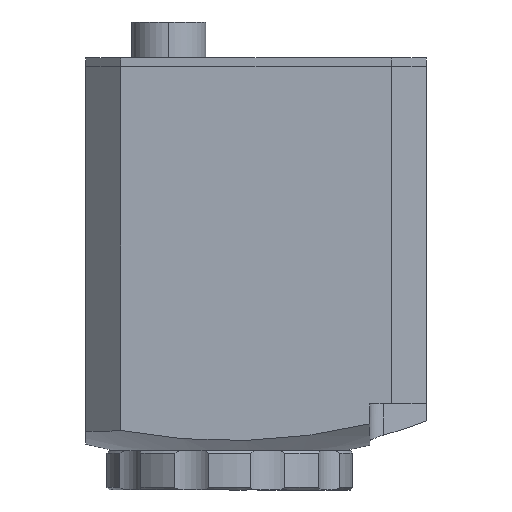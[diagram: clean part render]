
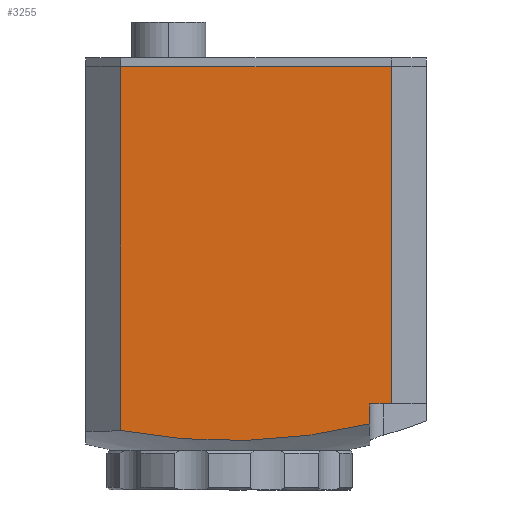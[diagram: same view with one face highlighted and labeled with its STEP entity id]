
A CAD part, left-side view. The second image highlights one B-rep face of the part: STEP entity #3255.
In plain terms, the highlighted planar face has unit normal (-1, 0, 0).
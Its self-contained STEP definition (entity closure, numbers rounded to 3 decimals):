
#10 = CIRCLE ( 'NONE', #3912, 67.633 ) ;
#127 = DIRECTION ( 'NONE',  ( 0., 0., -1. ) ) ;
#142 = EDGE_CURVE ( 'NONE', #1526, #4247, #633, .T. ) ;
#174 = EDGE_CURVE ( 'NONE', #3837, #4247, #3299, .T. ) ;
#207 = EDGE_LOOP ( 'NONE', ( #3661, #2564, #2461, #3683, #1079, #1622 ) ) ;
#283 = CARTESIAN_POINT ( 'NONE',  ( -18.05, 12.5, 79.6 ) ) ;
#310 = CARTESIAN_POINT ( 'NONE',  ( -18.05, -16., 41. ) ) ;
#367 = CARTESIAN_POINT ( 'NONE',  ( -18.05, -16., 38.717 ) ) ;
#470 = VERTEX_POINT ( 'NONE', #1147 ) ;
#527 = CARTESIAN_POINT ( 'NONE',  ( -18.05, 12.5, 79.6 ) ) ;
#570 = EDGE_CURVE ( 'NONE', #4108, #470, #1536, .T. ) ;
#633 = LINE ( 'NONE', #1952, #2794 ) ;
#935 = DIRECTION ( 'NONE',  ( 0., 0., -1. ) ) ;
#937 = CARTESIAN_POINT ( 'NONE',  ( -18.05, -16., 41. ) ) ;
#1079 = ORIENTED_EDGE ( 'NONE', *, *, #142, .F. ) ;
#1112 = VECTOR ( 'NONE', #3682, 1000. ) ;
#1147 = CARTESIAN_POINT ( 'NONE',  ( -18.05, 12.5, 37.963 ) ) ;
#1303 = DIRECTION ( 'NONE',  ( 0., 0., -1. ) ) ;
#1513 = AXIS2_PLACEMENT_3D ( 'NONE', #1787, #1534, #127 ) ;
#1526 = VERTEX_POINT ( 'NONE', #3674 ) ;
#1534 = DIRECTION ( 'NONE',  ( 1., 0., 0. ) ) ;
#1536 = LINE ( 'NONE', #283, #3009 ) ;
#1622 = ORIENTED_EDGE ( 'NONE', *, *, #2389, .F. ) ;
#1787 = CARTESIAN_POINT ( 'NONE',  ( -18.05, 12.5, 79.6 ) ) ;
#1812 = CARTESIAN_POINT ( 'NONE',  ( -18.05, -16., 35.648 ) ) ;
#1817 = CARTESIAN_POINT ( 'NONE',  ( -18.05, -18.5, 41. ) ) ;
#1947 = DIRECTION ( 'NONE',  ( 0., 0., -1. ) ) ;
#1952 = CARTESIAN_POINT ( 'NONE',  ( -18.05, -18.5, 79.6 ) ) ;
#2185 = EDGE_CURVE ( 'NONE', #3152, #3837, #3817, .T. ) ;
#2217 = CARTESIAN_POINT ( 'NONE',  ( -18.05, 0., 104.43 ) ) ;
#2330 = LINE ( 'NONE', #2371, #1112 ) ;
#2371 = CARTESIAN_POINT ( 'NONE',  ( -18.05, 12.5, 79.6 ) ) ;
#2389 = EDGE_CURVE ( 'NONE', #4108, #1526, #2330, .T. ) ;
#2435 = VECTOR ( 'NONE', #3982, 1000. ) ;
#2461 = ORIENTED_EDGE ( 'NONE', *, *, #2185, .T. ) ;
#2564 = ORIENTED_EDGE ( 'NONE', *, *, #3860, .T. ) ;
#2709 = FACE_OUTER_BOUND ( 'NONE', #207, .T. ) ;
#2794 = VECTOR ( 'NONE', #935, 1000. ) ;
#2856 = VECTOR ( 'NONE', #3484, 1000. ) ;
#2925 = DIRECTION ( 'NONE',  ( -1., 0., 0. ) ) ;
#3009 = VECTOR ( 'NONE', #1947, 1000. ) ;
#3152 = VERTEX_POINT ( 'NONE', #367 ) ;
#3255 = ADVANCED_FACE ( 'NONE', ( #2709 ), #3846, .F. ) ;
#3299 = LINE ( 'NONE', #310, #2435 ) ;
#3484 = DIRECTION ( 'NONE',  ( 0., 0., 1. ) ) ;
#3661 = ORIENTED_EDGE ( 'NONE', *, *, #570, .T. ) ;
#3674 = CARTESIAN_POINT ( 'NONE',  ( -18.05, -18.5, 79.6 ) ) ;
#3682 = DIRECTION ( 'NONE',  ( 0., -1., 0. ) ) ;
#3683 = ORIENTED_EDGE ( 'NONE', *, *, #174, .T. ) ;
#3817 = LINE ( 'NONE', #1812, #2856 ) ;
#3837 = VERTEX_POINT ( 'NONE', #937 ) ;
#3846 = PLANE ( 'NONE',  #1513 ) ;
#3860 = EDGE_CURVE ( 'NONE', #470, #3152, #10, .T. ) ;
#3912 = AXIS2_PLACEMENT_3D ( 'NONE', #2217, #2925, #1303 ) ;
#3982 = DIRECTION ( 'NONE',  ( 0., -1., 0. ) ) ;
#4108 = VERTEX_POINT ( 'NONE', #527 ) ;
#4247 = VERTEX_POINT ( 'NONE', #1817 ) ;
